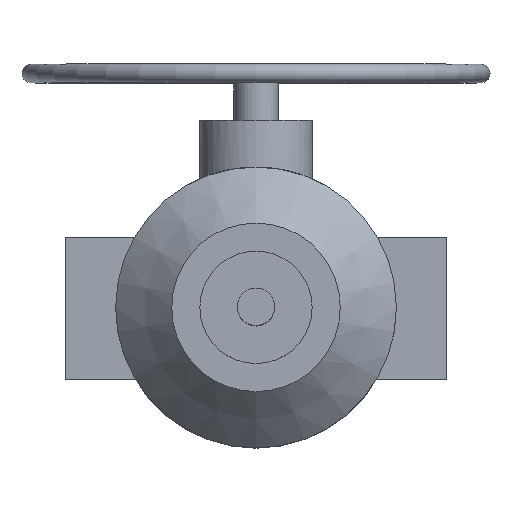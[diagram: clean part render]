
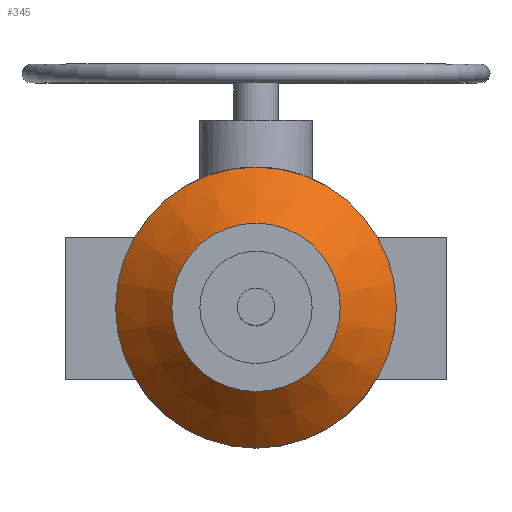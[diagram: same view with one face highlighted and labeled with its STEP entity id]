
A CAD part, top view. The second image highlights one B-rep face of the part: STEP entity #345.
In plain terms, the highlighted conical face has half-angle 45 degrees and reference radius 60 mm.
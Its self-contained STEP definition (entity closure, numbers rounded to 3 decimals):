
#345=ADVANCED_FACE('',(#1293,#1295),#1297,.T.);
#1293=FACE_BOUND('',#1294,.T.);
#1294=EDGE_LOOP('',(#2092,#2093));
#1295=FACE_OUTER_BOUND('',#1296,.T.);
#1296=EDGE_LOOP('',(#2094));
#1297=CONICAL_SURFACE('',#1298,60.,0.785);
#1298=AXIS2_PLACEMENT_3D('',#1299,#1300,#1301);
#1299=CARTESIAN_POINT('',(0.,0.,473.));
#1300=DIRECTION('',(0.,0.,-1.));
#1301=DIRECTION('',(0.,-1.,0.));
#2092=ORIENTED_EDGE('',*,*,#2534,.F.);
#2093=ORIENTED_EDGE('',*,*,#2535,.F.);
#2094=ORIENTED_EDGE('',*,*,#2482,.T.);
#2482=EDGE_CURVE('',#2781,#2781,#2782,.T.);
#2534=EDGE_CURVE('',#2877,#2878,#2879,.T.);
#2535=EDGE_CURVE('',#2878,#2877,#2880,.T.);
#2781=VERTEX_POINT('',#3343);
#2782=CIRCLE('',#3344,45.);
#2877=VERTEX_POINT('',#3557);
#2878=VERTEX_POINT('',#3558);
#2879=CIRCLE('',#3559,75.);
#2880=CIRCLE('',#3563,75.);
#3343=CARTESIAN_POINT('',(0.,-45.,488.));
#3344=AXIS2_PLACEMENT_3D('',#3345,#3346,#3347);
#3345=CARTESIAN_POINT('',(0.,0.,488.));
#3346=DIRECTION('',(0.,0.,-1.));
#3347=DIRECTION('',(0.,-1.,0.));
#3557=CARTESIAN_POINT('',(0.,-75.,458.));
#3558=CARTESIAN_POINT('',(0.,75.,458.));
#3559=AXIS2_PLACEMENT_3D('',#3560,#3561,#3562);
#3560=CARTESIAN_POINT('',(0.,0.,458.));
#3561=DIRECTION('',(0.,0.,-1.));
#3562=DIRECTION('',(0.,-1.,0.));
#3563=AXIS2_PLACEMENT_3D('',#3564,#3565,#3566);
#3564=CARTESIAN_POINT('',(0.,0.,458.));
#3565=DIRECTION('',(0.,0.,-1.));
#3566=DIRECTION('',(0.,1.,0.));
